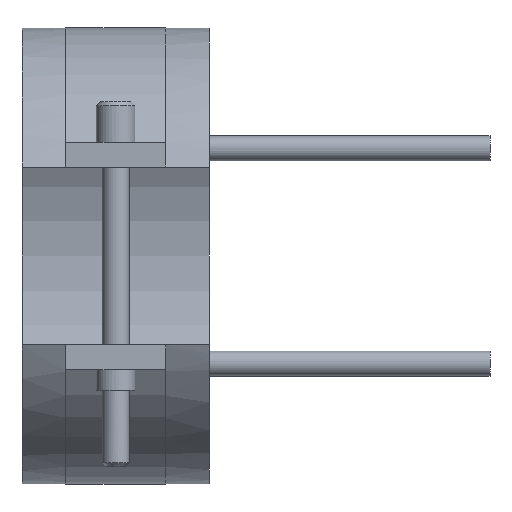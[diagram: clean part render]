
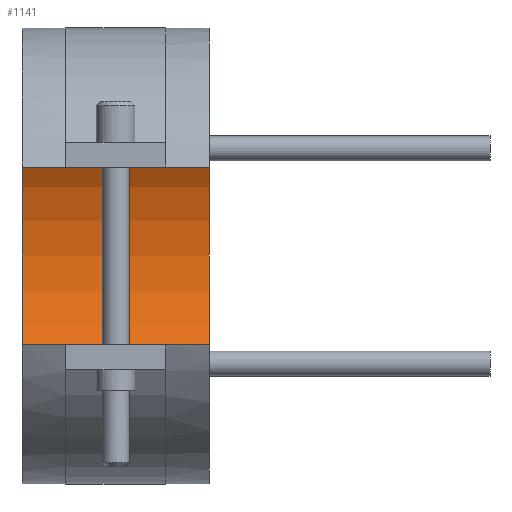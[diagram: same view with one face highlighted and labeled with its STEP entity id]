
A CAD part, front view. The second image highlights one B-rep face of the part: STEP entity #1141.
In plain terms, the highlighted cylindrical face has radius 32.5 mm (diameter 65 mm), a partial arc.
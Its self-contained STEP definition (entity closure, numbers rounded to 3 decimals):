
#822=CARTESIAN_POINT('Vertex',(-15.,0.,-32.5)) ;
#829=CARTESIAN_POINT('Vertex',(15.,0.,-32.5)) ;
#832=CARTESIAN_POINT('Line Origine',(15.,0.,-32.5)) ;
#850=CARTESIAN_POINT('Axis2P3D Location',(-15.,0.,0.)) ;
#854=CARTESIAN_POINT('Vertex',(-15.,0.,32.5)) ;
#911=CARTESIAN_POINT('Vertex',(15.,0.,32.5)) ;
#921=CARTESIAN_POINT('Line Origine',(15.,0.,32.5)) ;
#1012=CARTESIAN_POINT('Axis2P3D Location',(15.,0.,0.)) ;
#1130=CARTESIAN_POINT('Axis2P3D Location',(15.,0.,0.)) ;
#833=DIRECTION('Vector Direction',(1.,0.,0.)) ;
#851=DIRECTION('Axis2P3D Direction',(1.,0.,0.)) ;
#922=DIRECTION('Vector Direction',(1.,0.,0.)) ;
#1013=DIRECTION('Axis2P3D Direction',(1.,0.,0.)) ;
#1131=DIRECTION('Axis2P3D Direction',(1.,0.,-0.)) ;
#1132=DIRECTION('Axis2P3D XDirection',(0.,0.,-1.)) ;
#852=AXIS2_PLACEMENT_3D('Circle Axis2P3D',#850,#851,$) ;
#1014=AXIS2_PLACEMENT_3D('Circle Axis2P3D',#1012,#1013,$) ;
#1133=AXIS2_PLACEMENT_3D('Cylinder Axis2P3D',#1130,#1131,#1132) ;
#1136=ORIENTED_EDGE('',*,*,#1016,.T.) ;
#1137=ORIENTED_EDGE('',*,*,#925,.T.) ;
#1138=ORIENTED_EDGE('',*,*,#856,.F.) ;
#1139=ORIENTED_EDGE('',*,*,#836,.T.) ;
#834=VECTOR('Line Direction',#833,1.) ;
#923=VECTOR('Line Direction',#922,1.) ;
#1141=ADVANCED_FACE('14065030',(#1140),#1134,.F.) ;
#853=CIRCLE('generated circle',#852,32.5) ;
#1015=CIRCLE('generated circle',#1014,32.5) ;
#1134=CYLINDRICAL_SURFACE('generated cylinder',#1133,32.5) ;
#836=EDGE_CURVE('',#823,#830,#835,.T.) ;
#856=EDGE_CURVE('',#823,#855,#853,.T.) ;
#925=EDGE_CURVE('',#912,#855,#924,.F.) ;
#1016=EDGE_CURVE('',#830,#912,#1015,.T.) ;
#1135=EDGE_LOOP('',(#1136,#1137,#1138,#1139)) ;
#1140=FACE_OUTER_BOUND('',#1135,.T.) ;
#835=LINE('Line',#832,#834) ;
#924=LINE('Line',#921,#923) ;
#823=VERTEX_POINT('',#822) ;
#830=VERTEX_POINT('',#829) ;
#855=VERTEX_POINT('',#854) ;
#912=VERTEX_POINT('',#911) ;
